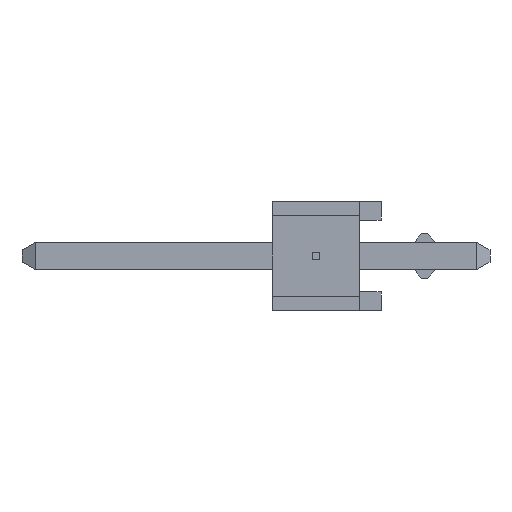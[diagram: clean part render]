
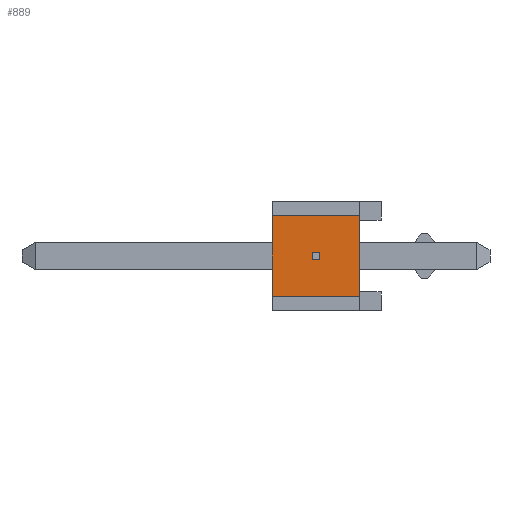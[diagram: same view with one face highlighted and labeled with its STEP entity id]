
A CAD part, left-side view. The second image highlights one B-rep face of the part: STEP entity #889.
In plain terms, the highlighted planar face has unit normal (-1, 0, 0).
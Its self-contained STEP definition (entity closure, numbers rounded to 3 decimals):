
#889=ADVANCED_FACE('',(#1803,#1804),#1805,.T.);
#1803=FACE_BOUND('',#2732,.T.);
#1804=FACE_OUTER_BOUND('',#2733,.T.);
#1805=PLANE('',#2734);
#2732=EDGE_LOOP('',(#5352,#5353,#5354,#5355));
#2733=EDGE_LOOP('',(#5356,#5357,#5358,#5359));
#2734=AXIS2_PLACEMENT_3D('',#5360,#5361,#5362);
#5352=ORIENTED_EDGE('',*,*,#6562,.T.);
#5353=ORIENTED_EDGE('',*,*,#6557,.T.);
#5354=ORIENTED_EDGE('',*,*,#6566,.T.);
#5355=ORIENTED_EDGE('',*,*,#6570,.T.);
#5356=ORIENTED_EDGE('',*,*,#6584,.F.);
#5357=ORIENTED_EDGE('',*,*,#6582,.T.);
#5358=ORIENTED_EDGE('',*,*,#6585,.F.);
#5359=ORIENTED_EDGE('',*,*,#6575,.T.);
#5360=CARTESIAN_POINT('',(-1.067,-1.04,1.27));
#5361=DIRECTION('',(-1.0,0.0,0.0));
#5362=DIRECTION('',(0.0,0.0,1.0));
#6557=EDGE_CURVE('',#8092,#8093,#8094,.T.);
#6562=EDGE_CURVE('',#8101,#8092,#8102,.T.);
#6566=EDGE_CURVE('',#8093,#8107,#8108,.T.);
#6570=EDGE_CURVE('',#8107,#8101,#8113,.T.);
#6575=EDGE_CURVE('',#8120,#8117,#8121,.T.);
#6582=EDGE_CURVE('',#8127,#8131,#8133,.T.);
#6584=EDGE_CURVE('',#8127,#8117,#8135,.T.);
#6585=EDGE_CURVE('',#8120,#8131,#8136,.T.);
#8092=VERTEX_POINT('',#10376);
#8093=VERTEX_POINT('',#10377);
#8094=LINE('',#10378,#10379);
#8101=VERTEX_POINT('',#10389);
#8102=LINE('',#10390,#10391);
#8107=VERTEX_POINT('',#10398);
#8108=LINE('',#10399,#10400);
#8113=LINE('',#10407,#10408);
#8117=VERTEX_POINT('',#10413);
#8120=VERTEX_POINT('',#10417);
#8121=LINE('',#10418,#10419);
#8127=VERTEX_POINT('',#10427);
#8131=VERTEX_POINT('',#10433);
#8133=LINE('',#10436,#10437);
#8135=LINE('',#10439,#10440);
#8136=LINE('',#10441,#10442);
#10376=CARTESIAN_POINT('',(-1.067,-0.927,1.184));
#10377=CARTESIAN_POINT('',(-1.067,-0.927,1.354));
#10378=CARTESIAN_POINT('',(-1.067,-0.927,1.27));
#10379=VECTOR('',#11271,1.0);
#10389=CARTESIAN_POINT('',(-1.067,-1.107,1.184));
#10390=CARTESIAN_POINT('',(-1.067,-1.029,1.184));
#10391=VECTOR('',#11275,1.0);
#10398=CARTESIAN_POINT('',(-1.067,-1.107,1.354));
#10399=CARTESIAN_POINT('',(-1.067,-1.029,1.354));
#10400=VECTOR('',#11278,1.0);
#10407=CARTESIAN_POINT('',(-1.067,-1.107,1.27));
#10408=VECTOR('',#11281,1.0);
#10413=CARTESIAN_POINT('',(-1.067,0.0,2.21));
#10417=CARTESIAN_POINT('',(-1.067,-2.032,2.21));
#10418=CARTESIAN_POINT('',(-1.067,-1.04,2.21));
#10419=VECTOR('',#11284,1.0);
#10427=CARTESIAN_POINT('',(-1.067,0.0,0.33));
#10433=CARTESIAN_POINT('',(-1.067,-2.032,0.33));
#10436=CARTESIAN_POINT('',(-1.067,-1.04,0.33));
#10437=VECTOR('',#11290,1.0);
#10439=CARTESIAN_POINT('',(-1.067,0.0,0.635));
#10440=VECTOR('',#11291,1.0);
#10441=CARTESIAN_POINT('',(-1.067,-2.032,0.635));
#10442=VECTOR('',#11292,1.0);
#11271=DIRECTION('',(0.0,0.0,1.0));
#11275=DIRECTION('',(0.0,1.0,-0.0));
#11278=DIRECTION('',(0.0,-1.0,0.0));
#11281=DIRECTION('',(0.0,0.0,-1.0));
#11284=DIRECTION('',(0.0,1.0,0.0));
#11290=DIRECTION('',(0.0,-1.0,0.0));
#11291=DIRECTION('',(0.0,-0.0,1.0));
#11292=DIRECTION('',(-0.0,-0.0,-1.0));
